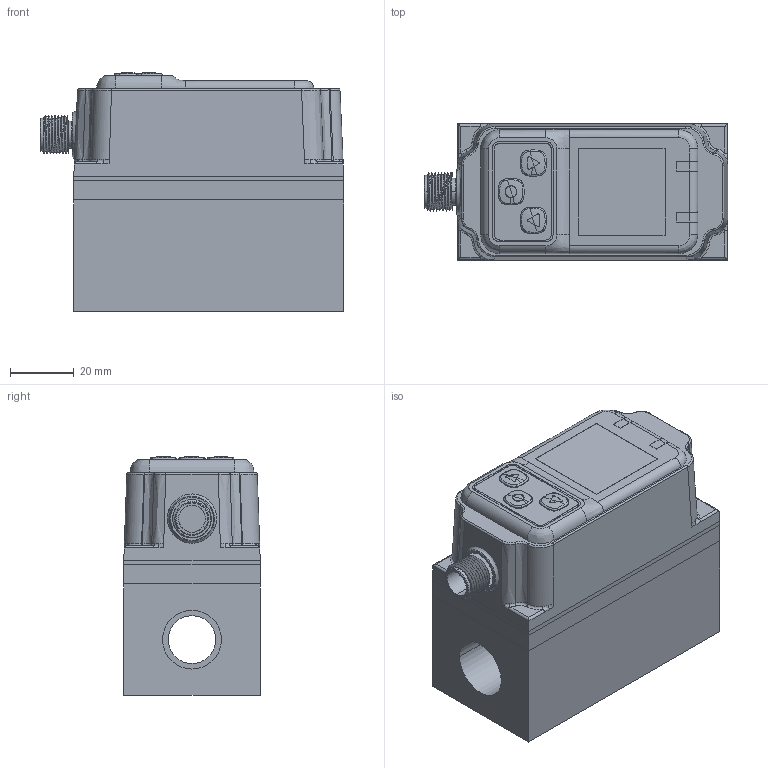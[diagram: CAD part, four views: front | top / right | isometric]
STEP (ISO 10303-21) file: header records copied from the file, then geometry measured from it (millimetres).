
FILE_DESCRIPTION (( 'STEP AP214' ), '1' );
FILE_NAME ('BFW2F.STEP', '2025-12-15T03:35:33', ( '' ), ( '' ), 'SwSTEP 2.0', 'SolidWorks 2025', '' );
FILE_SCHEMA (( 'AUTOMOTIVE_DESIGN' ));
Length unit declared in the file: millimetre
Products named in the file (5): 涡轮装配体2025.12最终板.STEP; DN15 本体.STEP; 涡街流量计上盖外形.STEP; 板子.STEP; BFW2F
Assembly tree (4 placements, depth 3):
  BFW2F
    涡轮装配体2025.12最终板.STEP
      涡街流量计上盖外形.STEP
      板子.STEP
      DN15 本体.STEP
Bounding box: 95.53 x 43 x 75.02 mm (x, y, z)
Volume: 137369.9 mm3; surface area: 49082.6 mm2
Topology: 2 solids, 12 shells, 469 faces, 1203 edges, 772 vertices
Faces by surface type: bspline 230, plane 134, cylinder 97, cone 8
Entity records: 52729 total; most frequent: CARTESIAN_POINT 44309, ORIENTED_EDGE 2373, EDGE_CURVE 1191, B_SPLINE_CURVE_WITH_KNOTS 1125, VERTEX_POINT 772, DIRECTION 550, EDGE_LOOP 501, ADVANCED_FACE 469
